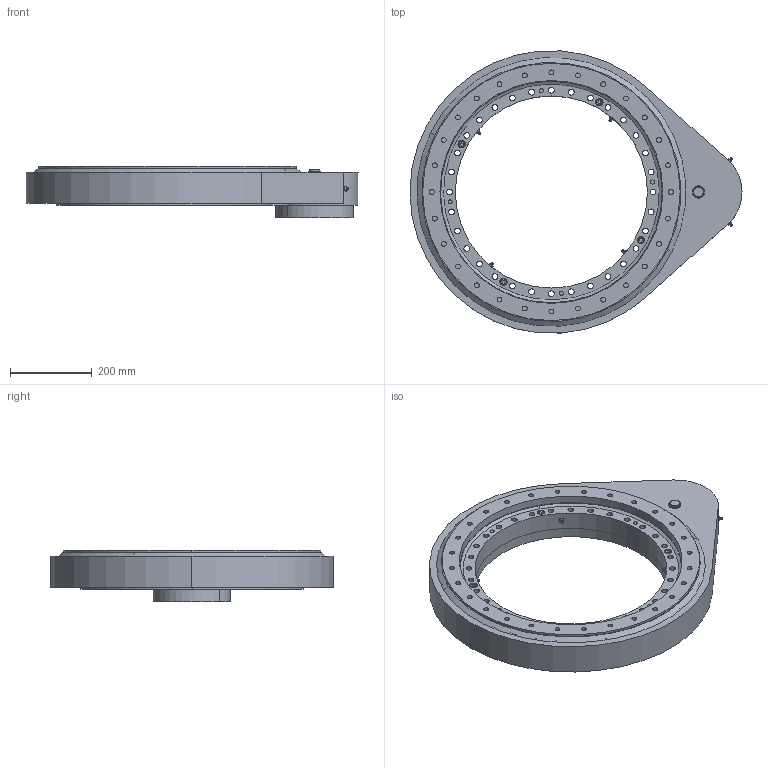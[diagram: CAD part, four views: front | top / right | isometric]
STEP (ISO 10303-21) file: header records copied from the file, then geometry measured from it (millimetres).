
FILE_DESCRIPTION (( 'STEP AP214' ), '1' );
FILE_NAME ('20541.STEP', '2023-03-18T03:49:29', ( '' ), ( '' ), 'SwSTEP 2.0', 'SolidWorks 2021', '' );
FILE_SCHEMA (( 'AUTOMOTIVE_DESIGN' ));
Length unit declared in the file: millimetre
Products named in the file (1): 20541
Bounding box: 812.5 x 690.25 x 125 mm (x, y, z)
Surface area: 1153889.9 mm2 (no closed solid volume)
Topology: 0 solids, 51 shells, 548 faces, 1853 edges, 1290 vertices
Faces by surface type: cylinder 262, plane 163, torus 55, cone 46, sphere 22
Entity records: 27376 total; most frequent: CARTESIAN_POINT 5095, DIRECTION 3642, ORIENTED_EDGE 2905, EDGE_CURVE 1771, AXIS2_PLACEMENT_3D 1485, VERTEX_POINT 1246, CIRCLE 936, EDGE_LOOP 794
